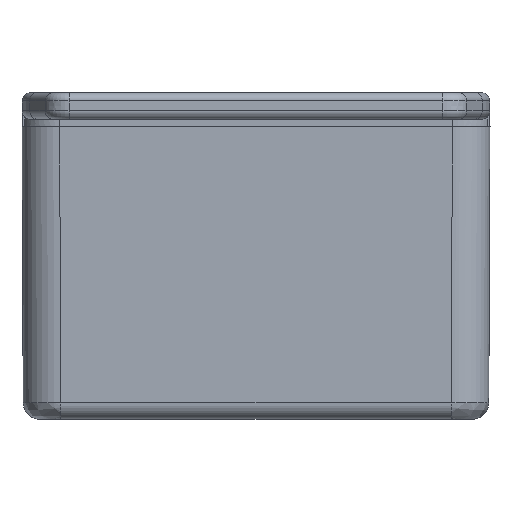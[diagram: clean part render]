
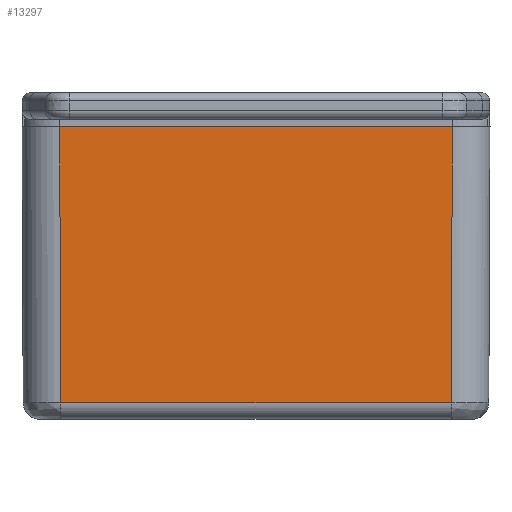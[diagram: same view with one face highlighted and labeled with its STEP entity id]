
A CAD part, front view. The second image highlights one B-rep face of the part: STEP entity #13297.
In plain terms, the highlighted planar face has unit normal (0, -1, -0.004) as drawn and (0, -0.004, -1) by its records, which use the part's own axes.
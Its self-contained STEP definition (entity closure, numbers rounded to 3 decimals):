
#887=PLANE('',#14236);
#1063=LINE('',#18863,#2228);
#1822=LINE('',#23499,#2987);
#1828=LINE('',#23578,#2993);
#1833=LINE('',#23622,#2998);
#2228=VECTOR('',#15010,10.);
#2987=VECTOR('',#16747,10.);
#2993=VECTOR('',#16771,10.);
#2998=VECTOR('',#16790,10.);
#3886=FACE_OUTER_BOUND('',#4664,.T.);
#4664=EDGE_LOOP('',(#11308,#11309,#11310,#11311));
#5597=VERTEX_POINT('',#18849);
#5603=VERTEX_POINT('',#18861);
#6318=VERTEX_POINT('',#23495);
#6321=VERTEX_POINT('',#23571);
#6899=EDGE_CURVE('',#5597,#5603,#1063,.T.);
#8017=EDGE_CURVE('',#5597,#6318,#1822,.T.);
#8029=EDGE_CURVE('',#6321,#5603,#1828,.T.);
#8037=EDGE_CURVE('',#6318,#6321,#1833,.T.);
#11308=ORIENTED_EDGE('',*,*,#8017,.F.);
#11309=ORIENTED_EDGE('',*,*,#6899,.T.);
#11310=ORIENTED_EDGE('',*,*,#8029,.F.);
#11311=ORIENTED_EDGE('',*,*,#8037,.F.);
#13297=ADVANCED_FACE('',(#3886),#887,.T.);
#14236=AXIS2_PLACEMENT_3D('',#23626,#16797,#16798);
#15010=DIRECTION('',(1.,0.,0.));
#16747=DIRECTION('',(0.004,-1.,0.004));
#16771=DIRECTION('',(0.004,1.,-0.004));
#16790=DIRECTION('',(1.,0.,0.));
#16797=DIRECTION('center_axis',(0.,-0.004,
-1.));
#16798=DIRECTION('ref_axis',(1.,0.,0.));
#18849=CARTESIAN_POINT('',(-23.5,0.,-42.5));
#18861=CARTESIAN_POINT('',(23.5,0.,-42.5));
#18863=CARTESIAN_POINT('',(-28.,0.,-42.5));
#23495=CARTESIAN_POINT('',(-23.356,-33.009,-42.356));
#23499=CARTESIAN_POINT('',(-23.5,-0.103,-42.5));
#23571=CARTESIAN_POINT('',(23.356,-33.009,-42.356));
#23578=CARTESIAN_POINT('',(23.499,-0.166,-42.499));
#23622=CARTESIAN_POINT('',(14.,-33.009,-42.356));
#23626=CARTESIAN_POINT('Origin',(28.,0.,-42.5));
